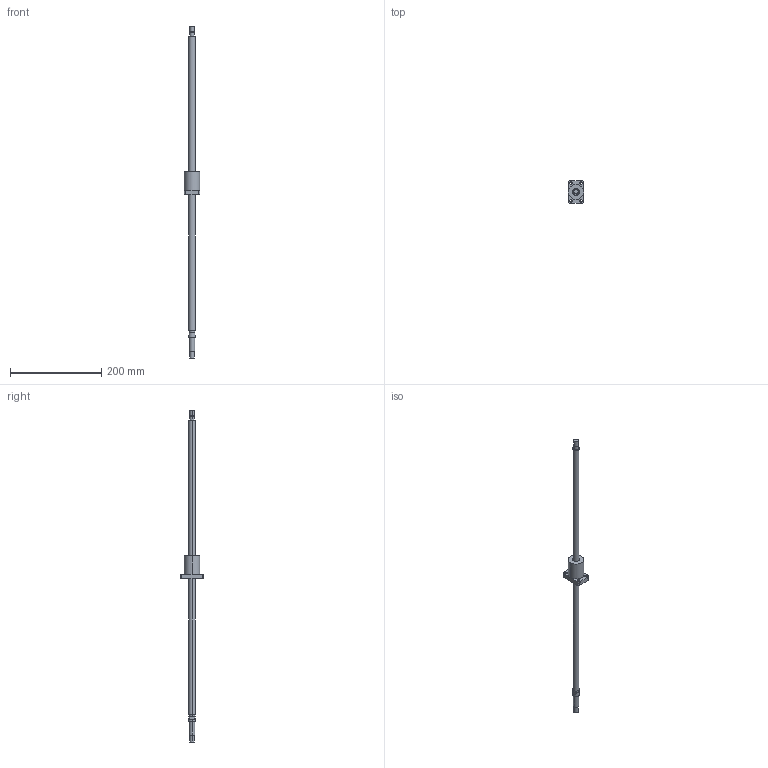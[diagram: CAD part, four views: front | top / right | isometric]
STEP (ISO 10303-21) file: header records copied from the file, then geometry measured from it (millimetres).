
FILE_DESCRIPTION((''),'2;1');
FILE_NAME('R15-10K3-FSC-639-721','2008-03-28T',('mahdi'),(''),'PRO/ENGINEER BY PARAMETRIC TECHNOLOGY CORPORATION, 2005070','PRO/ENGINEER BY PARAMETRIC TECHNOLOGY CORPORATION, 2005070','');
FILE_SCHEMA(('CONFIG_CONTROL_DESIGN'));
Length unit declared in the file: millimetre
Products named in the file (1): R15-10K3-FSC-639-721
Bounding box: 34 x 50 x 727 mm (x, y, z)
Volume: 164873.6 mm3; surface area: 41166.8 mm2
Topology: 1 solids, 1 shells, 66 faces, 148 edges, 96 vertices
Faces by surface type: cylinder 40, plane 26
Entity records: 1926 total; most frequent: DIRECTION 364, CARTESIAN_POINT 310, ORIENTED_EDGE 296, AXIS2_PLACEMENT_3D 150, EDGE_CURVE 148, VERTEX_POINT 96, EDGE_LOOP 86, CIRCLE 84
